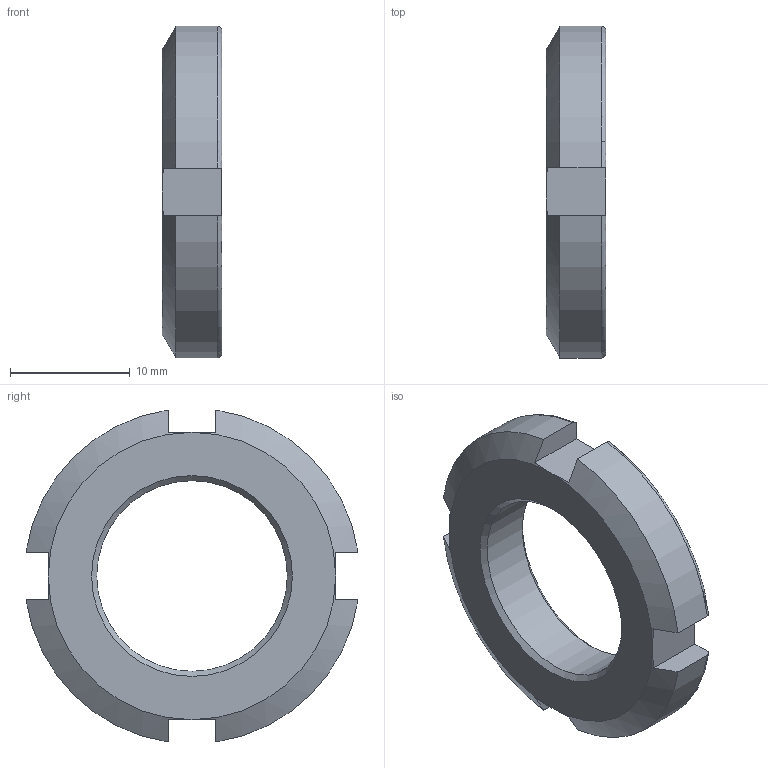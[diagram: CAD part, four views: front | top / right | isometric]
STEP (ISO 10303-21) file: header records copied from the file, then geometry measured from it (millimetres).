
FILE_DESCRIPTION(/* description */ ('홈붙이 둥근 너트'),/* implementation_level */ '2;1');
FILE_NAME(/* name */ '',/* time_stamp */ '2025-03-10T16:40:52+09:00',/* author */ ('jhkim'),/* organization */ (''),/* preprocessor_version */ 'ST-DEVELOPER v20',/* originating_system */ 'Autodesk Inventor 2025',/* authorisation */ '');
FILE_SCHEMA (('AUTOMOTIVE_DESIGN { 1 0 10303 214 3 1 1 }'));
Length unit declared in the file: millimetre
Products named in the file (1): 베어링 너트 AN03
Bounding box: 5 x 27.71 x 27.71 mm (x, y, z)
Volume: 1837.8 mm3; surface area: 1425.4 mm2
Topology: 1 solids, 1 shells, 29 faces, 76 edges, 49 vertices
Faces by surface type: plane 14, cone 6, cylinder 5, torus 4
Full cylindrical faces by diameter (mm): 15.917 x1
Entity records: 978 total; most frequent: CARTESIAN_POINT 259, ORIENTED_EDGE 152, DIRECTION 133, EDGE_CURVE 76, AXIS2_PLACEMENT_3D 51, VERTEX_POINT 49, EDGE_LOOP 31, LINE 31
